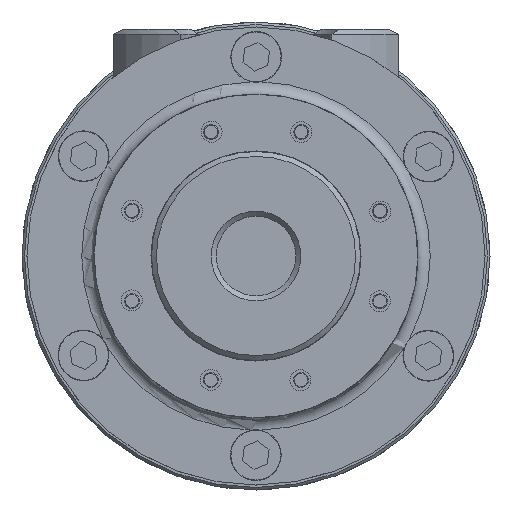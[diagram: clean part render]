
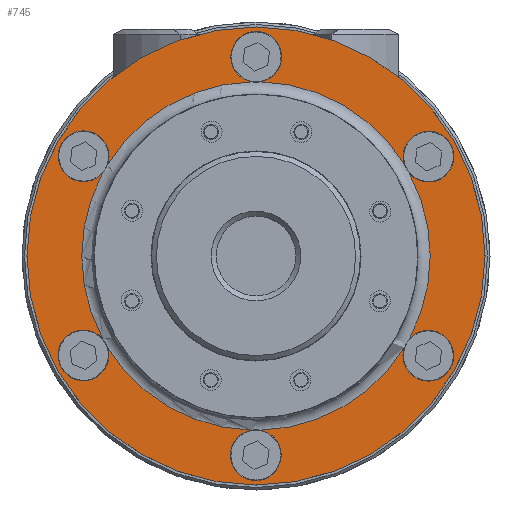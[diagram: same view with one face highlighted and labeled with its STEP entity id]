
A CAD part, left-side view. The second image highlights one B-rep face of the part: STEP entity #745.
In plain terms, the highlighted planar face has unit normal (-1, 0, 0).
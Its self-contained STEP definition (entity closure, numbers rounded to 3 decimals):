
#745 = ADVANCED_FACE( '', ( #1463, #1464 ), #1465, .F. );
#1463 = FACE_OUTER_BOUND( '', #2601, .T. );
#1464 = FACE_BOUND( '', #2602, .T. );
#1465 = PLANE( '', #2603 );
#2601 = EDGE_LOOP( '', ( #4293 ) );
#2602 = EDGE_LOOP( '', ( #4294, #4295, #4296, #4297, #4298, #4299, #4300, #4301, #4302, #4303, #4304, #4305 ) );
#2603 = AXIS2_PLACEMENT_3D( '', #4306, #4307, #4308 );
#4293 = ORIENTED_EDGE( '', *, *, #6499, .T. );
#4294 = ORIENTED_EDGE( '', *, *, #6522, .T. );
#4295 = ORIENTED_EDGE( '', *, *, #6507, .T. );
#4296 = ORIENTED_EDGE( '', *, *, #6523, .T. );
#4297 = ORIENTED_EDGE( '', *, *, #6524, .T. );
#4298 = ORIENTED_EDGE( '', *, *, #6525, .T. );
#4299 = ORIENTED_EDGE( '', *, *, #6497, .T. );
#4300 = ORIENTED_EDGE( '', *, *, #6526, .T. );
#4301 = ORIENTED_EDGE( '', *, *, #6527, .T. );
#4302 = ORIENTED_EDGE( '', *, *, #6528, .T. );
#4303 = ORIENTED_EDGE( '', *, *, #6529, .T. );
#4304 = ORIENTED_EDGE( '', *, *, #6530, .T. );
#4305 = ORIENTED_EDGE( '', *, *, #6531, .T. );
#4306 = CARTESIAN_POINT( '', ( -22., 46., 0. ) );
#4307 = DIRECTION( '', ( 1., 0., 0. ) );
#4308 = DIRECTION( '', ( 0., 1., 0. ) );
#6497 = EDGE_CURVE( '', #7503, #7502, #7505, .T. );
#6499 = EDGE_CURVE( '', #7508, #7508, #7509, .F. );
#6507 = EDGE_CURVE( '', #7381, #7380, #7520, .T. );
#6522 = EDGE_CURVE( '', #7471, #7381, #7543, .T. );
#6523 = EDGE_CURVE( '', #7380, #7535, #7544, .T. );
#6524 = EDGE_CURVE( '', #7535, #7534, #7545, .T. );
#6525 = EDGE_CURVE( '', #7534, #7503, #7546, .T. );
#6526 = EDGE_CURVE( '', #7502, #7547, #7548, .T. );
#6527 = EDGE_CURVE( '', #7547, #7549, #7550, .T. );
#6528 = EDGE_CURVE( '', #7549, #7551, #7552, .T. );
#6529 = EDGE_CURVE( '', #7551, #7553, #7554, .T. );
#6530 = EDGE_CURVE( '', #7553, #7472, #7555, .T. );
#6531 = EDGE_CURVE( '', #7472, #7471, #7556, .T. );
#7380 = VERTEX_POINT( '', #9170 );
#7381 = VERTEX_POINT( '', #9171 );
#7471 = VERTEX_POINT( '', #9295 );
#7472 = VERTEX_POINT( '', #9296 );
#7502 = VERTEX_POINT( '', #9328 );
#7503 = VERTEX_POINT( '', #9329 );
#7505 = CIRCLE( '', #9331, 5.1 );
#7508 = VERTEX_POINT( '', #9334 );
#7509 = CIRCLE( '', #9335, 46. );
#7520 = CIRCLE( '', #9352, 5.1 );
#7534 = VERTEX_POINT( '', #9369 );
#7535 = VERTEX_POINT( '', #9370 );
#7543 = CIRCLE( '', #9384, 35. );
#7544 = CIRCLE( '', #9385, 35. );
#7545 = CIRCLE( '', #9386, 5.1 );
#7546 = CIRCLE( '', #9387, 35. );
#7547 = VERTEX_POINT( '', #9388 );
#7548 = CIRCLE( '', #9389, 35. );
#7549 = VERTEX_POINT( '', #9390 );
#7550 = CIRCLE( '', #9391, 5.1 );
#7551 = VERTEX_POINT( '', #9392 );
#7552 = CIRCLE( '', #9393, 35. );
#7553 = VERTEX_POINT( '', #9394 );
#7554 = CIRCLE( '', #9395, 5.1 );
#7555 = CIRCLE( '', #9396, 35. );
#7556 = CIRCLE( '', #9397, 5.1 );
#9170 = CARTESIAN_POINT( '', ( -22., 29.83, 18.308 ) );
#9171 = CARTESIAN_POINT( '', ( -22., 30.77, 16.68 ) );
#9295 = CARTESIAN_POINT( '', ( -22., 30.77, -16.68 ) );
#9296 = CARTESIAN_POINT( '', ( -22., 29.83, -18.308 ) );
#9328 = CARTESIAN_POINT( '', ( -22., -30.77, 16.68 ) );
#9329 = CARTESIAN_POINT( '', ( -22., -29.83, 18.308 ) );
#9331 = AXIS2_PLACEMENT_3D( '', #11622, #11623, #11624 );
#9334 = CARTESIAN_POINT( '', ( -22., 0., -46. ) );
#9335 = AXIS2_PLACEMENT_3D( '', #11628, #11629, #11630 );
#9352 = AXIS2_PLACEMENT_3D( '', #11646, #11647, #11648 );
#9369 = CARTESIAN_POINT( '', ( -22., -0.94, 34.987 ) );
#9370 = CARTESIAN_POINT( '', ( -22., 0.94, 34.987 ) );
#9384 = AXIS2_PLACEMENT_3D( '', #11679, #11680, #11681 );
#9385 = AXIS2_PLACEMENT_3D( '', #11682, #11683, #11684 );
#9386 = AXIS2_PLACEMENT_3D( '', #11685, #11686, #11687 );
#9387 = AXIS2_PLACEMENT_3D( '', #11688, #11689, #11690 );
#9388 = CARTESIAN_POINT( '', ( -22., -30.77, -16.68 ) );
#9389 = AXIS2_PLACEMENT_3D( '', #11691, #11692, #11693 );
#9390 = CARTESIAN_POINT( '', ( -22., -29.83, -18.308 ) );
#9391 = AXIS2_PLACEMENT_3D( '', #11694, #11695, #11696 );
#9392 = CARTESIAN_POINT( '', ( -22., -0.94, -34.987 ) );
#9393 = AXIS2_PLACEMENT_3D( '', #11697, #11698, #11699 );
#9394 = CARTESIAN_POINT( '', ( -22., 0.94, -34.987 ) );
#9395 = AXIS2_PLACEMENT_3D( '', #11700, #11701, #11702 );
#9396 = AXIS2_PLACEMENT_3D( '', #11703, #11704, #11705 );
#9397 = AXIS2_PLACEMENT_3D( '', #11706, #11707, #11708 );
#11622 = CARTESIAN_POINT( '', ( -22., -34.641, 20. ) );
#11623 = DIRECTION( '', ( 1., 0., 0. ) );
#11624 = DIRECTION( '', ( 0., 0., -1. ) );
#11628 = CARTESIAN_POINT( '', ( -22., 0., 0. ) );
#11629 = DIRECTION( '', ( 1., 0., 0. ) );
#11630 = DIRECTION( '', ( 0., 0., -1. ) );
#11646 = CARTESIAN_POINT( '', ( -22., 34.641, 20. ) );
#11647 = DIRECTION( '', ( 1., 0., 0. ) );
#11648 = DIRECTION( '', ( 0., 0., -1. ) );
#11679 = CARTESIAN_POINT( '', ( -22., 0., 0. ) );
#11680 = DIRECTION( '', ( 1., 0., 0. ) );
#11681 = DIRECTION( '', ( 0., 0., -1. ) );
#11682 = CARTESIAN_POINT( '', ( -22., 0., 0. ) );
#11683 = DIRECTION( '', ( 1., 0., 0. ) );
#11684 = DIRECTION( '', ( 0., 0., -1. ) );
#11685 = CARTESIAN_POINT( '', ( -22., 0., 40. ) );
#11686 = DIRECTION( '', ( 1., 0., 0. ) );
#11687 = DIRECTION( '', ( 0., 0., -1. ) );
#11688 = CARTESIAN_POINT( '', ( -22., 0., 0. ) );
#11689 = DIRECTION( '', ( 1., 0., 0. ) );
#11690 = DIRECTION( '', ( 0., 0., -1. ) );
#11691 = CARTESIAN_POINT( '', ( -22., 0., 0. ) );
#11692 = DIRECTION( '', ( 1., 0., 0. ) );
#11693 = DIRECTION( '', ( 0., 0., -1. ) );
#11694 = CARTESIAN_POINT( '', ( -22., -34.641, -20. ) );
#11695 = DIRECTION( '', ( 1., 0., 0. ) );
#11696 = DIRECTION( '', ( 0., 0., -1. ) );
#11697 = CARTESIAN_POINT( '', ( -22., 0., 0. ) );
#11698 = DIRECTION( '', ( 1., 0., 0. ) );
#11699 = DIRECTION( '', ( 0., 0., -1. ) );
#11700 = CARTESIAN_POINT( '', ( -22., 0., -40. ) );
#11701 = DIRECTION( '', ( 1., 0., 0. ) );
#11702 = DIRECTION( '', ( 0., 0., -1. ) );
#11703 = CARTESIAN_POINT( '', ( -22., 0., 0. ) );
#11704 = DIRECTION( '', ( 1., 0., 0. ) );
#11705 = DIRECTION( '', ( 0., 0., -1. ) );
#11706 = CARTESIAN_POINT( '', ( -22., 34.641, -20. ) );
#11707 = DIRECTION( '', ( 1., 0., 0. ) );
#11708 = DIRECTION( '', ( 0., 0., -1. ) );
